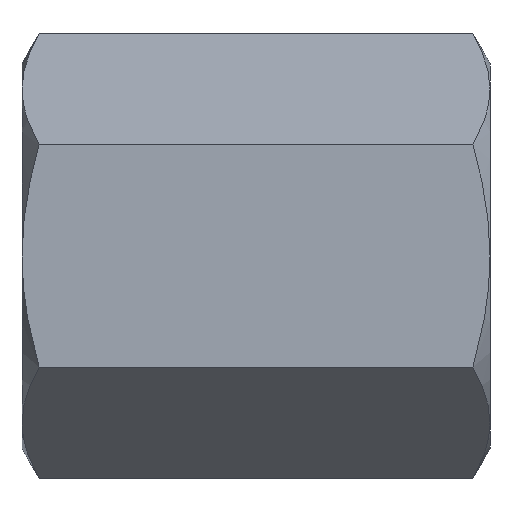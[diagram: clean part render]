
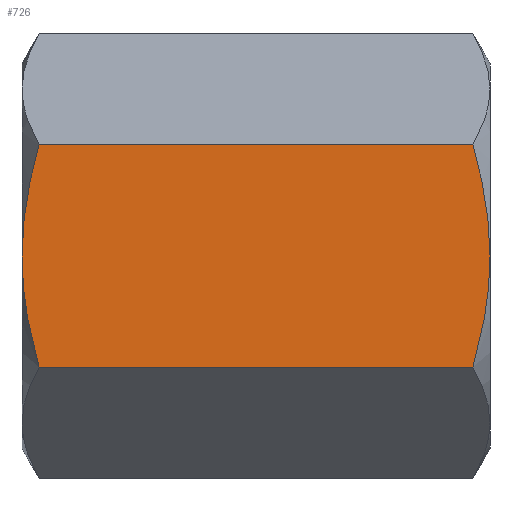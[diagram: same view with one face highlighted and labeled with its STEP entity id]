
A CAD part, left-side view. The second image highlights one B-rep face of the part: STEP entity #726.
In plain terms, the highlighted planar face has unit normal (-1, 0, 0).
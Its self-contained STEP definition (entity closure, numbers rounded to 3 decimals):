
#2 = LINE ( 'NONE', #827, #815 ) ;
#6 = VECTOR ( 'NONE', #845, 1000. ) ;
#18 = ORIENTED_EDGE ( 'NONE', *, *, #443, .T. ) ;
#30 = CARTESIAN_POINT ( 'NONE',  ( -7., 8.5, 4.041 ) ) ;
#48 = ORIENTED_EDGE ( 'NONE', *, *, #167, .F. ) ;
#54 = B_SPLINE_CURVE_WITH_KNOTS ( 'NONE', 3,
 ( #860, #766, #674, #578, #483, #386 ),
 .UNSPECIFIED., .F., .F.,
 ( 4, 2, 4 ),
 ( 0.008, 0.01, 0.012 ),
 .UNSPECIFIED. ) ;
#57 = CARTESIAN_POINT ( 'NONE',  ( -7., -8.5, 0. ) ) ;
#100 = CARTESIAN_POINT ( 'NONE',  ( -7., -7.875, 4.041 ) ) ;
#101 = CARTESIAN_POINT ( 'NONE',  ( -7., 8.5, 0. ) ) ;
#122 = LINE ( 'NONE', #30, #6 ) ;
#137 = VERTEX_POINT ( 'NONE', #442 ) ;
#143 = CARTESIAN_POINT ( 'NONE',  ( -7., -8.5, -0.684 ) ) ;
#149 = ORIENTED_EDGE ( 'NONE', *, *, #862, .T. ) ;
#167 = EDGE_CURVE ( 'NONE', #786, #663, #122, .T. ) ;
#186 = CARTESIAN_POINT ( 'NONE',  ( -7., -8.063, 3.388 ) ) ;
#211 = CARTESIAN_POINT ( 'NONE',  ( -7., -8.5, 0. ) ) ;
#215 = CARTESIAN_POINT ( 'NONE',  ( -7., 8.5, 0. ) ) ;
#224 = EDGE_LOOP ( 'NONE', ( #18, #861, #149, #48, #548, #411 ) ) ;
#233 = CARTESIAN_POINT ( 'NONE',  ( -7., -8.441, -1.362 ) ) ;
#242 = VERTEX_POINT ( 'NONE', #211 ) ;
#252 = CARTESIAN_POINT ( 'NONE',  ( -7., 7.875, 4.041 ) ) ;
#268 = CARTESIAN_POINT ( 'NONE',  ( -7., -8.221, 2.726 ) ) ;
#305 = CARTESIAN_POINT ( 'NONE',  ( -7., 7.875, -4.041 ) ) ;
#319 = CARTESIAN_POINT ( 'NONE',  ( -7., -8.224, -2.711 ) ) ;
#340 = CARTESIAN_POINT ( 'NONE',  ( -7., 8.063, 3.388 ) ) ;
#363 = EDGE_CURVE ( 'NONE', #649, #600, #54, .T. ) ;
#367 = CARTESIAN_POINT ( 'NONE',  ( -7., -8.439, 1.377 ) ) ;
#386 = CARTESIAN_POINT ( 'NONE',  ( -7., 8.5, 0. ) ) ;
#411 = ORIENTED_EDGE ( 'NONE', *, *, #363, .F. ) ;
#418 = CARTESIAN_POINT ( 'NONE',  ( -7., -8.065, -3.383 ) ) ;
#442 = CARTESIAN_POINT ( 'NONE',  ( -7., -7.875, -4.041 ) ) ;
#443 = EDGE_CURVE ( 'NONE', #649, #137, #2, .T. ) ;
#445 = CARTESIAN_POINT ( 'NONE',  ( -7., 8.221, 2.726 ) ) ;
#447 = AXIS2_PLACEMENT_3D ( 'NONE', #676, #581, #485 ) ;
#452 = EDGE_CURVE ( 'NONE', #600, #786, #470, .T. ) ;
#463 = CARTESIAN_POINT ( 'NONE',  ( -7., 7.875, 4.041 ) ) ;
#466 = CARTESIAN_POINT ( 'NONE',  ( -7., -8.5, 0.684 ) ) ;
#470 = B_SPLINE_CURVE_WITH_KNOTS ( 'NONE', 3,
 ( #101, #633, #541, #445, #340, #252 ),
 .UNSPECIFIED., .F., .F.,
 ( 4, 2, 4 ),
 ( 0.012, 0.014, 0.016 ),
 .UNSPECIFIED. ) ;
#483 = CARTESIAN_POINT ( 'NONE',  ( -7., 8.5, -0.684 ) ) ;
#485 = DIRECTION ( 'NONE',  ( 0., 0., -1. ) ) ;
#520 = CARTESIAN_POINT ( 'NONE',  ( -7., -7.875, -4.041 ) ) ;
#523 = FACE_OUTER_BOUND ( 'NONE', #224, .T. ) ;
#541 = CARTESIAN_POINT ( 'NONE',  ( -7., 8.439, 1.377 ) ) ;
#548 = ORIENTED_EDGE ( 'NONE', *, *, #452, .F. ) ;
#560 = CARTESIAN_POINT ( 'NONE',  ( -7., -8.5, 0. ) ) ;
#578 = CARTESIAN_POINT ( 'NONE',  ( -7., 8.441, -1.362 ) ) ;
#581 = DIRECTION ( 'NONE',  ( 1., 0., 0. ) ) ;
#600 = VERTEX_POINT ( 'NONE', #215 ) ;
#609 = B_SPLINE_CURVE_WITH_KNOTS ( 'NONE', 3,
 ( #520, #418, #319, #233, #143, #57 ),
 .UNSPECIFIED., .F., .F.,
 ( 4, 2, 4 ),
 ( 0.008, 0.01, 0.012 ),
 .UNSPECIFIED. ) ;
#626 = CARTESIAN_POINT ( 'NONE',  ( -7., -7.875, 4.041 ) ) ;
#633 = CARTESIAN_POINT ( 'NONE',  ( -7., 8.5, 0.684 ) ) ;
#649 = VERTEX_POINT ( 'NONE', #305 ) ;
#663 = VERTEX_POINT ( 'NONE', #626 ) ;
#674 = CARTESIAN_POINT ( 'NONE',  ( -7., 8.224, -2.711 ) ) ;
#676 = CARTESIAN_POINT ( 'NONE',  ( -7., 8.5, -4.041 ) ) ;
#726 = ADVANCED_FACE ( 'NONE', ( #523 ), #768, .F. ) ;
#733 = DIRECTION ( 'NONE',  ( 0., -1., 0. ) ) ;
#766 = CARTESIAN_POINT ( 'NONE',  ( -7., 8.065, -3.383 ) ) ;
#768 = PLANE ( 'NONE',  #447 ) ;
#786 = VERTEX_POINT ( 'NONE', #463 ) ;
#815 = VECTOR ( 'NONE', #733, 1000. ) ;
#827 = CARTESIAN_POINT ( 'NONE',  ( -7., 8.5, -4.041 ) ) ;
#845 = DIRECTION ( 'NONE',  ( 0., -1., 0. ) ) ;
#860 = CARTESIAN_POINT ( 'NONE',  ( -7., 7.875, -4.041 ) ) ;
#861 = ORIENTED_EDGE ( 'NONE', *, *, #872, .T. ) ;
#862 = EDGE_CURVE ( 'NONE', #242, #663, #894, .T. ) ;
#872 = EDGE_CURVE ( 'NONE', #137, #242, #609, .T. ) ;
#894 = B_SPLINE_CURVE_WITH_KNOTS ( 'NONE', 3,
 ( #560, #466, #367, #268, #186, #100 ),
 .UNSPECIFIED., .F., .F.,
 ( 4, 2, 4 ),
 ( 0.012, 0.014, 0.016 ),
 .UNSPECIFIED. ) ;
